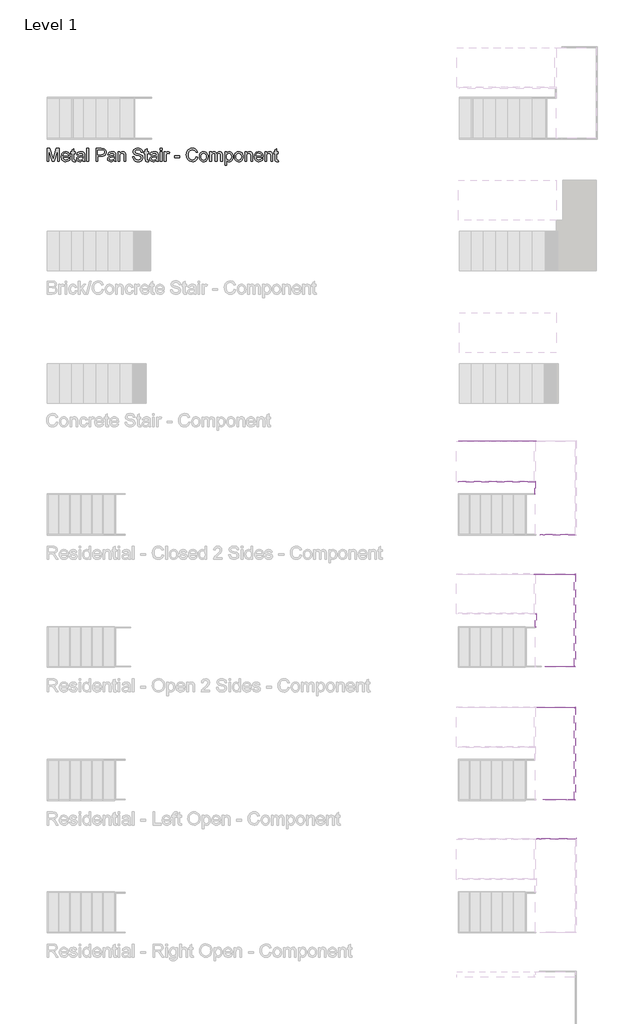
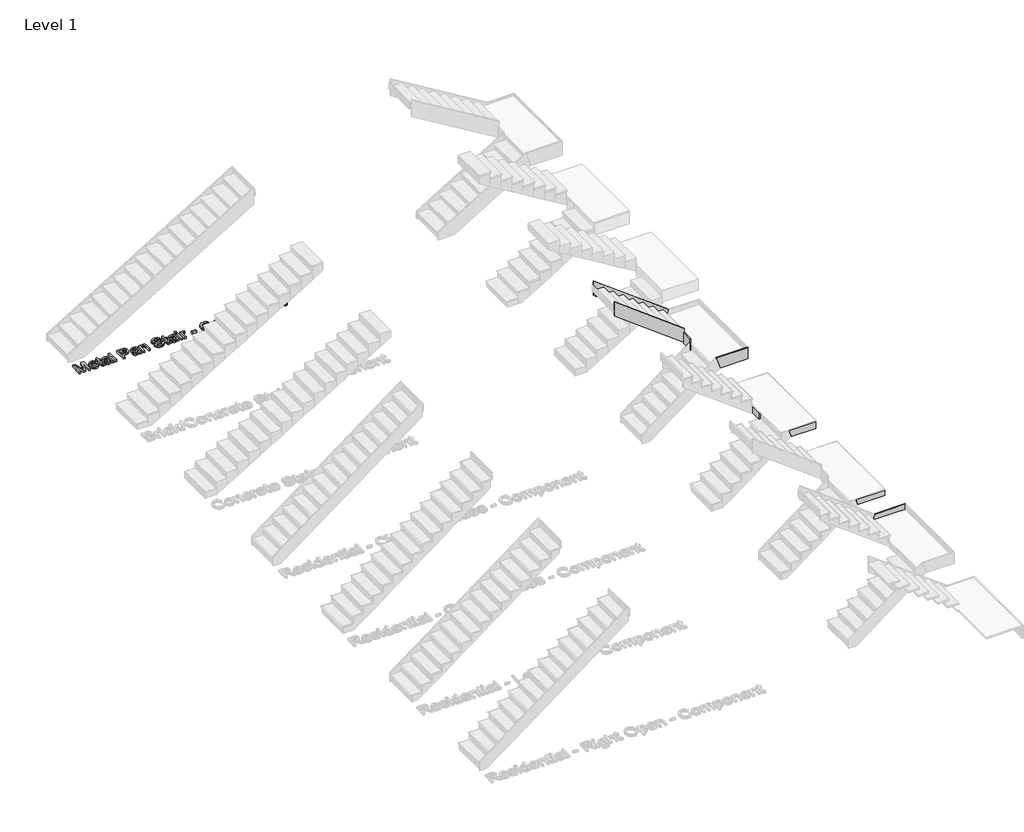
# One storey, part 20 of 26: 12 members, 1 proxy.
"""IFC4 building model written with IfcOpenShell, lengths in millimetres."""

from ifc_helpers import new_model, si_unit, frame, origin, origin_with_axes, place, context, project, spatial, polyline, outline, extrude, faceted_brep, element, save

model = new_model("IFC4")

# Units and contexts
model_context = context("Model", 3, world=origin())
ifc_project = project(units=[si_unit("LENGTHUNIT", "METRE", prefix="MILLI")], contexts=[model_context])

# Site, building, storey
site = spatial("IfcSite", under=ifc_project)
building = spatial("IfcBuilding", under=site)
storey = spatial("IfcBuildingStorey", under=building, Name="Level 1", Elevation=0.0)

# Proxy
placement = place(None, origin())
element("IfcBuildingElementProxy", 1, Name="12\" Arial", ObjectType="12\" Arial", at=placement, inside=storey, context=model_context, shape_type="SweptSolid", body=[
    extrude(outline(polyline([(-27238.310174, 15572.8767877), (-27238.310174, 15872.987557), (-27173.7599817, 15872.987557), (-27112.3603664, 15661.4592877), (-27099.9778664, 15617.2779416), (-27086.5695971, 15665.1227493), (-27026.195751, 15872.987557), (-26961.6455587, 15872.987557), (-26961.6455587, 15572.8767877), (-26999.1594048, 15572.8767877), (-26999.1594048, 15835.4737108), (-27074.5534433, 15572.8767877), (-27125.4022894, 15572.8767877), (-27200.7963279, 15835.4737108), (-27200.7963279, 15572.8767877), (-27238.310174, 15572.8767877)])), origin_with_axes(), (0.0, 0.0, 1.0), 50.8),
    extrude(outline(polyline([(-26746.3805587, 15638.5260185), (-26709.5994048, 15633.8367877), (-26722.8519769, 15606.1227012), (-26743.9993087, 15585.4058262), (-26772.56515, 15572.4921243), (-26808.073251, 15568.187557), (-26831.3499697, 15570.044474), (-26852.0897414, 15575.6152252), (-26870.2925659, 15584.8998106), (-26885.9584433, 15597.89823), (-26898.5561716, 15614.2487168), (-26907.554549, 15633.5895041), (-26912.9535755, 15655.9205918), (-26914.753251, 15681.24198), (-26912.9352582, 15707.4219921), (-26907.4812798, 15730.4972204), (-26898.3913159, 15750.4676651), (-26885.6653664, 15767.3333262), (-26870.0407029, 15780.7324368), (-26852.2545971, 15790.30323), (-26832.307049, 15796.045706), (-26810.1980587, 15797.9598646), (-26788.8011536, 15796.0502853), (-26769.4512077, 15790.3215473), (-26752.1482209, 15780.7736507), (-26736.8921933, 15767.4065954), (-26724.4387137, 15750.577569), (-26715.5433712, 15730.6437589), (-26710.2061656, 15707.6051651), (-26708.4270971, 15681.4617877), (-26708.6469048, 15671.3506339), (-26877.2394048, 15671.3506339), (-26870.7459192, 15643.2702012), (-26855.6616164, 15622.6265954), (-26833.8914962, 15609.9327012), (-26807.3405587, 15605.7014031), (-26787.3746933, 15607.661355), (-26770.5594048, 15613.5412108), (-26756.8946933, 15623.7073166), (-26746.3805587, 15638.5260185)]), holes=[polyline([(-26877.2394048, 15708.86448), (-26745.9409433, 15708.86448), (-26751.0148375, 15728.683807), (-26760.9611356, 15742.8614031), (-26782.832001, 15756.0498646), (-26810.3445971, 15760.4460185), (-26835.6316404, 15756.9382541), (-26856.5408471, 15746.4149608), (-26871.0756308, 15730.0118118), (-26877.2394048, 15708.86448)])]), origin_with_axes(), (0.0, 0.0, 1.0), 50.8),
    extrude(outline(polyline([(-26591.1963279, 15604.1627493), (-26586.5070971, 15571.7777493), (-26614.5692125, 15568.187557), (-26632.575126, 15569.7445281), (-26646.0017125, 15574.4154416), (-26655.4900779, 15581.6141435), (-26661.6813279, 15590.75448), (-26665.0883471, 15606.4524127), (-26666.2240202, 15633.3239031), (-26666.2240202, 15755.7567877), (-26694.3594048, 15755.7567877), (-26694.3594048, 15793.2706339), (-26666.2240202, 15793.2706339), (-26666.2240202, 15846.8304416), (-26628.710174, 15868.88448), (-26628.710174, 15793.2706339), (-26591.1963279, 15793.2706339), (-26591.1963279, 15755.7567877), (-26628.710174, 15755.7567877), (-26628.710174, 15634.4229416), (-26626.7319048, 15615.0798646), (-26620.3208471, 15608.2291916), (-26607.5353664, 15605.7014031), (-26591.1963279, 15604.1627493)])), origin_with_axes(), (0.0, 0.0, 1.0), 50.8),
    extrude(outline(polyline([(-26413.0055587, 15601.0121723), (-26430.9290442, 15585.6439512), (-26449.3837317, 15575.5877493), (-26468.7909192, 15570.037605), (-26489.5719048, 15568.187557), (-26520.9219769, 15572.6386627), (-26544.0475779, 15585.99198), (-26558.3076019, 15606.2692396), (-26563.0609433, 15631.4921723), (-26561.2658471, 15647.0435666), (-26555.8805587, 15661.1662108), (-26547.5736596, 15673.2556339), (-26537.0137317, 15682.7073646), (-26510.7467125, 15695.0165954), (-26478.2884433, 15700.6583262), (-26439.932001, 15706.5931339), (-26413.2253664, 15713.5537108), (-26413.0055587, 15721.9064031), (-26415.588299, 15738.6484223), (-26423.3365202, 15749.6021723), (-26440.6646933, 15757.735057), (-26464.8069048, 15760.4460185), (-26487.1540202, 15758.6417637), (-26502.7603664, 15753.2289993), (-26513.4027221, 15743.2185906), (-26520.8578664, 15727.6214031), (-26558.3717125, 15732.3106339), (-26551.8599096, 15752.8260185), (-26542.1425779, 15768.9452493), (-26528.3130106, 15781.2727973), (-26509.464501, 15790.4131339), (-26486.4121692, 15796.073182), (-26459.9711356, 15797.9598646), (-26434.6108231, 15796.2929896), (-26414.5075779, 15791.2923646), (-26399.3500058, 15783.7731098), (-26388.8267125, 15774.5503454), (-26381.8478183, 15763.1478214), (-26377.3234433, 15749.0892877), (-26375.4917125, 15716.2646723), (-26375.4917125, 15669.5921723), (-26373.5867125, 15604.4191916), (-26366.113251, 15572.8767877), (-26403.6270971, 15572.8767877), (-26413.0055587, 15601.0121723)]), holes=[polyline([(-26413.0055587, 15676.0398646), (-26473.5259433, 15664.5365954), (-26505.8010394, 15658.4552493), (-26520.418251, 15648.5639031), (-26525.5470971, 15634.1298646), (-26522.7537077, 15622.9746243), (-26514.3735394, 15613.8342877), (-26500.5897654, 15607.7346243), (-26481.5855587, 15605.7014031), (-26461.4365202, 15607.9452733), (-26443.6320971, 15614.6768839), (-26429.1980587, 15624.595706), (-26419.160174, 15636.4012108), (-26414.7090683, 15648.5639031), (-26413.2253664, 15665.4158262), (-26413.0055587, 15676.0398646)])]), origin_with_axes(), (0.0, 0.0, 1.0), 50.8),
    extrude(outline(polyline([(-26323.910174, 15572.8767877), (-26323.910174, 15872.987557), (-26286.3963279, 15872.987557), (-26286.3963279, 15572.8767877), (-26323.910174, 15572.8767877)])), origin_with_axes(), (0.0, 0.0, 1.0), 50.8),
    extrude(outline(polyline([(-26108.2055587, 15572.8767877), (-26108.2055587, 15872.987557), (-25996.9828664, 15872.987557), (-25952.1420971, 15870.130057), (-25932.1487558, 15864.7905618), (-25915.6906548, 15856.0989993), (-25902.4380827, 15843.6615473), (-25892.0613279, 15827.0843839), (-25885.3571933, 15807.5306579), (-25883.1224817, 15786.1635185), (-25884.63137, 15767.7408863), (-25889.1580346, 15750.7927973), (-25896.7024757, 15735.3192517), (-25907.2646933, 15721.3202493), (-25921.765132, 15709.7162348), (-25941.1242365, 15701.4276531), (-25965.342007, 15696.4545041), (-25994.4184433, 15694.7967877), (-26070.6917125, 15694.7967877), (-26070.6917125, 15572.8767877), (-26108.2055587, 15572.8767877)]), holes=[polyline([(-26070.6917125, 15732.3106339), (-25992.2203664, 15732.3106339), (-25958.9561356, 15735.7542877), (-25936.9753664, 15746.0852493), (-25924.7210875, 15762.6624127), (-25920.6363279, 15784.8446723), (-25923.0450539, 15801.6965954), (-25930.2712317, 15815.9108262), (-25941.4173135, 15826.6081339), (-25955.585751, 15832.9092877), (-25993.0995971, 15835.4737108), (-26070.6917125, 15835.4737108), (-26070.6917125, 15732.3106339)])]), origin_with_axes(), (0.0, 0.0, 1.0), 50.8),
    extrude(outline(polyline([(-25695.553251, 15601.0121723), (-25713.4767365, 15585.6439512), (-25731.931424, 15575.5877493), (-25751.3386115, 15570.037605), (-25772.1195971, 15568.187557), (-25803.4696692, 15572.6386627), (-25826.5952702, 15585.99198), (-25840.8552942, 15606.2692396), (-25845.6086356, 15631.4921723), (-25843.8135394, 15647.0435666), (-25838.428251, 15661.1662108), (-25830.1213519, 15673.2556339), (-25819.561424, 15682.7073646), (-25793.2944048, 15695.0165954), (-25760.8361356, 15700.6583262), (-25722.4796933, 15706.5931339), (-25695.7730587, 15713.5537108), (-25695.553251, 15721.9064031), (-25698.1359914, 15738.6484223), (-25705.8842125, 15749.6021723), (-25723.2123856, 15757.735057), (-25747.3545971, 15760.4460185), (-25769.7017125, 15758.6417637), (-25785.3080587, 15753.2289993), (-25795.9504144, 15743.2185906), (-25803.4055587, 15727.6214031), (-25840.9194048, 15732.3106339), (-25834.4076019, 15752.8260185), (-25824.6902702, 15768.9452493), (-25810.8607029, 15781.2727973), (-25792.0121933, 15790.4131339), (-25768.9598615, 15796.073182), (-25742.5188279, 15797.9598646), (-25717.1585154, 15796.2929896), (-25697.0552702, 15791.2923646), (-25681.8976981, 15783.7731098), (-25671.3744048, 15774.5503454), (-25664.3955106, 15763.1478214), (-25659.8711356, 15749.0892877), (-25658.0394048, 15716.2646723), (-25658.0394048, 15669.5921723), (-25656.1344048, 15604.4191916), (-25648.6609433, 15572.8767877), (-25686.1747894, 15572.8767877), (-25695.553251, 15601.0121723)]), holes=[polyline([(-25695.553251, 15676.0398646), (-25756.0736356, 15664.5365954), (-25788.3487317, 15658.4552493), (-25802.9659433, 15648.5639031), (-25808.0947894, 15634.1298646), (-25805.3014, 15622.9746243), (-25796.9212317, 15613.8342877), (-25783.1374577, 15607.7346243), (-25764.133251, 15605.7014031), (-25743.9842125, 15607.9452733), (-25726.1797894, 15614.6768839), (-25711.745751, 15624.595706), (-25701.7078664, 15636.4012108), (-25697.2567606, 15648.5639031), (-25695.7730587, 15665.4158262), (-25695.553251, 15676.0398646)])]), origin_with_axes(), (0.0, 0.0, 1.0), 50.8),
    extrude(outline(polyline([(-25606.4578664, 15572.8767877), (-25606.4578664, 15793.2706339), (-25568.9440202, 15793.2706339), (-25568.9440202, 15762.497557), (-25555.9112558, 15778.0123166), (-25540.2591164, 15789.0942877), (-25521.9876019, 15795.7434704), (-25501.0967125, 15797.9598646), (-25482.6053904, 15796.1739271), (-25465.6710394, 15790.8161146), (-25451.5483952, 15782.5550089), (-25441.4921933, 15772.0591916), (-25430.2453664, 15744.4733262), (-25428.2670971, 15708.205057), (-25428.2670971, 15572.8767877), (-25465.7809433, 15572.8767877), (-25465.7809433, 15703.14948), (-25470.1038279, 15736.3404416), (-25476.0844289, 15746.2226291), (-25485.3804625, 15753.8884223), (-25497.2958712, 15758.8066195), (-25511.1345971, 15760.4460185), (-25533.1062077, 15756.7642396), (-25551.8356548, 15745.7189031), (-25559.3205647, 15736.7022084), (-25564.6669289, 15724.3792396), (-25568.9440202, 15689.81448), (-25568.9440202, 15572.8767877), (-25606.4578664, 15572.8767877)])), origin_with_axes(), (0.0, 0.0, 1.0), 50.8),
    extrude(outline(polyline([(-25268.833251, 15676.0398646), (-25231.3194048, 15676.0398646), (-25227.0148375, 15655.2222445), (-25219.2299817, 15638.4893839), (-25207.0856067, 15625.2093358), (-25189.7024817, 15614.7501531), (-25168.4544048, 15607.9635906), (-25144.715174, 15605.7014031), (-25123.815126, 15607.4140714), (-25105.5161356, 15612.5520762), (-25090.688275, 15620.6849608), (-25080.2016164, 15631.3822685), (-25073.9645731, 15643.6640233), (-25071.8855587, 15656.5502493), (-25073.4425298, 15669.1067637), (-25078.1134433, 15679.9597685), (-25087.6018087, 15689.2191675), (-25103.6111356, 15696.9948646), (-25158.2333471, 15711.3189993), (-25194.0894769, 15720.798206), (-25217.0319048, 15729.81948), (-25235.7064, 15742.440105), (-25248.9406548, 15757.735057), (-25256.8262558, 15775.3746243), (-25259.4547894, 15795.0290954), (-25256.2034673, 15817.000706), (-25246.449501, 15837.4886146), (-25230.4493327, 15854.8534223), (-25208.4594048, 15867.45573), (-25182.0641644, 15875.1215233), (-25152.8480587, 15877.6767877), (-25121.195751, 15875.0024608), (-25093.4999817, 15866.97948), (-25070.7498856, 15853.7727012), (-25053.9345971, 15835.54698), (-25043.2922414, 15813.4379896), (-25039.0609433, 15788.5814031), (-25076.5747894, 15788.5814031), (-25083.4620971, 15810.9651531), (-25097.8228664, 15827.1210185), (-25120.2615683, 15836.9024608), (-25151.382674, 15840.1629416), (-25183.2364721, 15836.9390954), (-25205.0890202, 15827.267557), (-25217.7279625, 15813.0350089), (-25221.9409433, 15796.1281339), (-25218.9552221, 15781.7124127), (-25209.9980587, 15770.117557), (-25188.823251, 15759.7499608), (-25148.7449817, 15749.162557), (-25107.384501, 15739.106355), (-25082.3630587, 15730.3323646), (-25060.9776019, 15716.722605), (-25046.0581548, 15699.9256339), (-25037.2933231, 15680.1246243), (-25034.3717125, 15657.5027493), (-25037.7329385, 15634.3771483), (-25047.8166164, 15612.6253454), (-25064.2106067, 15593.905057), (-25086.5027702, 15579.8739993), (-25113.31015, 15571.1091675), (-25143.2497894, 15568.187557), (-25180.0034673, 15571.3381339), (-25210.254501, 15580.7898646), (-25234.3509192, 15596.5793839), (-25252.640751, 15618.7433262), (-25264.3821452, 15645.7430377), (-25268.833251, 15676.0398646)])), origin_with_axes(), (0.0, 0.0, 1.0), 50.8),
    extrude(outline(polyline([(-24903.073251, 15604.1627493), (-24898.3840202, 15571.7777493), (-24926.4461356, 15568.187557), (-24944.452049, 15569.7445281), (-24957.8786356, 15574.4154416), (-24967.367001, 15581.6141435), (-24973.558251, 15590.75448), (-24976.9652702, 15606.4524127), (-24978.1009433, 15633.3239031), (-24978.1009433, 15755.7567877), (-25006.2363279, 15755.7567877), (-25006.2363279, 15793.2706339), (-24978.1009433, 15793.2706339), (-24978.1009433, 15846.8304416), (-24940.5870971, 15868.88448), (-24940.5870971, 15793.2706339), (-24903.073251, 15793.2706339), (-24903.073251, 15755.7567877), (-24940.5870971, 15755.7567877), (-24940.5870971, 15634.4229416), (-24938.6088279, 15615.0798646), (-24932.1977702, 15608.2291916), (-24919.4122894, 15605.7014031), (-24903.073251, 15604.1627493)])), origin_with_axes(), (0.0, 0.0, 1.0), 50.8),
    extrude(outline(polyline([(-24724.8824817, 15601.0121723), (-24742.8059673, 15585.6439512), (-24761.2606548, 15575.5877493), (-24780.6678423, 15570.037605), (-24801.4488279, 15568.187557), (-24832.7989, 15572.6386627), (-24855.924501, 15585.99198), (-24870.184525, 15606.2692396), (-24874.9378664, 15631.4921723), (-24873.1427702, 15647.0435666), (-24867.7574817, 15661.1662108), (-24859.4505827, 15673.2556339), (-24848.8906548, 15682.7073646), (-24822.6236356, 15695.0165954), (-24790.1653664, 15700.6583262), (-24751.808924, 15706.5931339), (-24725.1022894, 15713.5537108), (-24724.8824817, 15721.9064031), (-24727.4652221, 15738.6484223), (-24735.2134433, 15749.6021723), (-24752.5416164, 15757.735057), (-24776.6838279, 15760.4460185), (-24799.0309433, 15758.6417637), (-24814.6372894, 15753.2289993), (-24825.2796452, 15743.2185906), (-24832.7347894, 15727.6214031), (-24870.2486356, 15732.3106339), (-24863.7368327, 15752.8260185), (-24854.019501, 15768.9452493), (-24840.1899337, 15781.2727973), (-24821.341424, 15790.4131339), (-24798.2890923, 15796.073182), (-24771.8480587, 15797.9598646), (-24746.4877462, 15796.2929896), (-24726.384501, 15791.2923646), (-24711.2269289, 15783.7731098), (-24700.7036356, 15774.5503454), (-24693.7247414, 15763.1478214), (-24689.2003664, 15749.0892877), (-24687.3686356, 15716.2646723), (-24687.3686356, 15669.5921723), (-24685.4636356, 15604.4191916), (-24677.990174, 15572.8767877), (-24715.5040202, 15572.8767877), (-24724.8824817, 15601.0121723)]), holes=[polyline([(-24724.8824817, 15676.0398646), (-24785.4028664, 15664.5365954), (-24817.6779625, 15658.4552493), (-24832.295174, 15648.5639031), (-24837.4240202, 15634.1298646), (-24834.6306308, 15622.9746243), (-24826.2504625, 15613.8342877), (-24812.4666885, 15607.7346243), (-24793.4624817, 15605.7014031), (-24773.3134433, 15607.9452733), (-24755.5090202, 15614.6768839), (-24741.0749817, 15624.595706), (-24731.0370971, 15636.4012108), (-24726.5859914, 15648.5639031), (-24725.1022894, 15665.4158262), (-24724.8824817, 15676.0398646)])]), origin_with_axes(), (0.0, 0.0, 1.0), 50.8),
    extrude(outline(polyline([(-24635.7870971, 15572.8767877), (-24635.7870971, 15793.2706339), (-24598.273251, 15793.2706339), (-24598.273251, 15572.8767877), (-24635.7870971, 15572.8767877)])), origin_with_axes(), (0.0, 0.0, 1.0), 50.8),
    extrude(outline(polyline([(-24635.7870971, 15835.4737108), (-24635.7870971, 15872.987557), (-24598.273251, 15872.987557), (-24598.273251, 15835.4737108), (-24635.7870971, 15835.4737108)])), origin_with_axes(), (0.0, 0.0, 1.0), 50.8),
    extrude(outline(polyline([(-24542.0024817, 15572.8767877), (-24542.0024817, 15793.2706339), (-24509.1778664, 15793.2706339), (-24509.1778664, 15760.6658262), (-24497.0518087, 15779.5692877), (-24485.878251, 15790.7062108), (-24474.6680587, 15796.1464512), (-24462.4320971, 15797.9598646), (-24443.7484433, 15795.06573), (-24424.7717125, 15786.3833262), (-24437.300751, 15752.7527493), (-24450.4892125, 15758.5227012), (-24463.677674, 15760.4460185), (-24474.8787077, 15758.5959704), (-24484.8891164, 15753.0458262), (-24492.9762077, 15744.2168839), (-24498.4072894, 15732.5304416), (-24502.968299, 15711.5754416), (-24504.4886356, 15688.7154416), (-24504.4886356, 15572.8767877), (-24542.0024817, 15572.8767877)])), origin_with_axes(), (0.0, 0.0, 1.0), 50.8),
    extrude(outline(polyline([(-24302.8517125, 15661.9721723), (-24302.8517125, 15699.4860185), (-24185.6209433, 15699.4860185), (-24185.6209433, 15661.9721723), (-24302.8517125, 15661.9721723)])), origin_with_axes(), (0.0, 0.0, 1.0), 50.8),
    extrude(outline(polyline([(-23810.4824817, 15679.5567877), (-23772.9686356, 15669.8852493), (-23780.3917245, 15646.5558683), (-23790.2784914, 15626.1709945), (-23802.6289361, 15608.7306279), (-23817.4430587, 15594.2347685), (-23834.3865683, 15582.8391134), (-23853.125174, 15574.6993598), (-23873.658876, 15569.8155077), (-23895.987674, 15568.187557), (-23939.5004385, 15573.1149127), (-23974.0560394, 15587.89698), (-24000.5428664, 15612.0208743), (-24019.8493087, 15644.9737108), (-24031.6364962, 15683.7148166), (-24035.5655587, 15725.2035185), (-24031.1236115, 15768.9635666), (-24017.7977702, 15806.7521723), (-23996.2840923, 15837.3695521), (-23967.2786356, 15859.6159223), (-23932.8787317, 15873.1615714), (-23895.1817125, 15877.6767877), (-23854.0501981, 15871.8335666), (-23836.1564781, 15864.5295401), (-23820.0441164, 15854.3039031), (-23805.9787137, 15841.4268358), (-23794.2258712, 15826.1685185), (-23777.6578664, 15788.5081339), (-23815.1717125, 15779.5692877), (-23828.177001, 15806.9261868), (-23845.9447894, 15825.6922685), (-23868.6948856, 15836.5452733), (-23896.6470971, 15840.1629416), (-23928.8672414, 15836.1514512), (-23955.335751, 15824.11698), (-23975.4206789, 15805.3234223), (-23988.4900779, 15781.0346723), (-23995.6613039, 15753.5770281), (-23998.0517125, 15725.2767877), (-23995.2216885, 15690.6204416), (-23986.7316164, 15660.6533262), (-23972.2609433, 15636.5202733), (-23951.4891164, 15619.3661146), (-23926.5867365, 15609.117581), (-23899.7244048, 15605.7014031), (-23868.4109673, 15610.3539993), (-23842.3179625, 15624.3117877), (-23822.6176981, 15647.42823), (-23810.4824817, 15679.5567877)])), origin_with_axes(), (0.0, 0.0, 1.0), 50.8),
    extrude(outline(polyline([(-23735.4547894, 15683.0737108), (-23733.4261476, 15711.6166555), (-23727.3402221, 15736.2122204), (-23717.197013, 15756.8604055), (-23702.9965202, 15773.5612108), (-23688.6998615, 15784.2356219), (-23672.919501, 15791.8602012), (-23655.6554385, 15796.4349488), (-23636.907674, 15797.9598646), (-23616.211406, 15796.1029476), (-23597.4979865, 15790.5321964), (-23580.7674156, 15781.247611), (-23566.0196933, 15768.2491916), (-23553.9829325, 15751.9765534), (-23545.3852462, 15732.8693118), (-23540.2266344, 15710.9274668), (-23538.5070971, 15686.1510185), (-23541.5477702, 15648.2525089), (-23550.6697894, 15619.4027493), (-23565.6075539, 15597.7974848), (-23586.0954625, 15581.6324608), (-23610.4300058, 15571.5487829), (-23636.907674, 15568.187557), (-23657.9061777, 15570.037605), (-23676.7936115, 15575.5877493), (-23693.5699757, 15584.8379896), (-23708.2352702, 15597.7883262), (-23720.1438099, 15614.2189512), (-23728.6499096, 15633.910057), (-23733.7535695, 15656.8616435), (-23735.4547894, 15683.0737108)]), holes=[polyline([(-23697.9409433, 15683.14698), (-23693.5997414, 15649.1958502), (-23680.5761356, 15625.0078454), (-23660.9766164, 15610.5280137), (-23636.907674, 15605.7014031), (-23612.9486356, 15610.5554896), (-23593.385751, 15625.1177493), (-23580.3621452, 15649.626307), (-23576.0209433, 15684.3192877), (-23580.3896212, 15717.2812829), (-23593.4956548, 15741.1395762), (-23613.0860154, 15755.6194079), (-23636.907674, 15760.4460185), (-23660.9766164, 15755.6377252), (-23680.5761356, 15741.2128454), (-23693.5997414, 15717.0797925), (-23697.9409433, 15683.14698)])]), origin_with_axes(), (0.0, 0.0, 1.0), 50.8),
    extrude(outline(polyline([(-23496.3040202, 15572.8767877), (-23496.3040202, 15793.2706339), (-23458.790174, 15793.2706339), (-23458.790174, 15757.0023646), (-23447.5067125, 15773.661956), (-23432.9994048, 15786.7130377), (-23415.7628183, 15795.1481579), (-23396.2915202, 15797.9598646), (-23375.4281067, 15795.093206), (-23358.7044048, 15786.49323), (-23346.212001, 15772.7277733), (-23338.0424817, 15754.3646723), (-23324.3686115, 15773.437569), (-23308.771424, 15787.0610666), (-23291.2509192, 15795.2351651), (-23271.8070971, 15797.9598646), (-23243.6076019, 15793.426331), (-23222.7533471, 15779.82573), (-23209.8671212, 15756.7917156), (-23205.5717125, 15723.9579416), (-23205.5717125, 15572.8767877), (-23243.0855587, 15572.8767877), (-23243.0855587, 15707.8387108), (-23246.5658471, 15739.161307), (-23251.4565683, 15747.7979175), (-23259.1681548, 15754.58448), (-23269.0869769, 15758.9806339), (-23280.5994048, 15760.4460185), (-23300.9224577, 15756.6909704), (-23317.4904625, 15745.4258262), (-23328.5083231, 15725.8812589), (-23332.1809433, 15697.2879416), (-23332.1809433, 15572.8767877), (-23369.6947894, 15572.8767877), (-23369.6947894, 15712.015057), (-23371.8653904, 15733.2264993), (-23378.3771933, 15748.3565954), (-23389.8346692, 15757.4236627), (-23406.8422894, 15760.4460185), (-23421.2946452, 15758.4311146), (-23434.6113279, 15752.3864031), (-23445.6017125, 15742.4584223), (-23453.075174, 15728.7937108), (-23457.361424, 15709.8352973), (-23458.790174, 15684.0262108), (-23458.790174, 15572.8767877), (-23496.3040202, 15572.8767877)])), origin_with_axes(), (0.0, 0.0, 1.0), 50.8),
    extrude(outline(polyline([(-23149.3009433, 15488.4706339), (-23149.3009433, 15793.2706339), (-23111.7870971, 15793.2706339), (-23111.7870971, 15756.48948), (-23099.5511356, 15774.6327733), (-23085.8497894, 15787.5922685), (-23069.8770971, 15795.3679656), (-23050.8270971, 15797.9598646), (-23025.457626, 15794.3330377), (-23003.2753664, 15783.452557), (-22985.214501, 15765.9778454), (-22972.2092125, 15742.5683262), (-22964.3510875, 15714.9275089), (-22961.7317125, 15684.7589031), (-22964.6899577, 15652.6761387), (-22973.5646933, 15623.9820762), (-22988.072001, 15600.1329416), (-23007.9279625, 15582.5849608), (-23031.0535635, 15571.7869079), (-23055.3697894, 15568.187557), (-23072.6155346, 15570.5962829), (-23088.0112317, 15577.8224608), (-23101.1905346, 15588.7304175), (-23111.7870971, 15602.18448), (-23111.7870971, 15488.4706339), (-23149.3009433, 15488.4706339)]), holes=[polyline([(-23111.7870971, 15681.3152493), (-23107.7298135, 15647.6846723), (-23095.5579625, 15624.1652493), (-23077.5978423, 15610.3173646), (-23056.175751, 15605.7014031), (-23034.4056308, 15610.4822204), (-23015.9875779, 15624.8246723), (-23003.4310635, 15649.2050089), (-22999.2455587, 15684.09948), (-23003.3303183, 15717.5468839), (-23015.5845971, 15741.3960185), (-23033.5172414, 15755.6835185), (-23054.6370971, 15760.4460185), (-23075.8393808, 15755.3812829), (-23094.458924, 15740.1870762), (-23107.4550539, 15715.3396483), (-23111.7870971, 15681.3152493)])]), origin_with_axes(), (0.0, 0.0, 1.0), 50.8),
    extrude(outline(polyline([(-22928.9070971, 15683.0737108), (-22926.8784553, 15711.6166555), (-22920.7925298, 15736.2122204), (-22910.6493207, 15756.8604055), (-22896.4488279, 15773.5612108), (-22882.1521692, 15784.2356219), (-22866.3718087, 15791.8602012), (-22849.1077462, 15796.4349488), (-22830.3599817, 15797.9598646), (-22809.6637137, 15796.1029476), (-22790.9502942, 15790.5321964), (-22774.2197233, 15781.247611), (-22759.472001, 15768.2491916), (-22747.4352402, 15751.9765534), (-22738.8375539, 15732.8693118), (-22733.6789421, 15710.9274668), (-22731.9594048, 15686.1510185), (-22735.0000779, 15648.2525089), (-22744.1220971, 15619.4027493), (-22759.0598615, 15597.7974848), (-22779.5477702, 15581.6324608), (-22803.8823135, 15571.5487829), (-22830.3599817, 15568.187557), (-22851.3584853, 15570.037605), (-22870.2459192, 15575.5877493), (-22887.0222834, 15584.8379896), (-22901.6875779, 15597.7883262), (-22913.5961176, 15614.2189512), (-22922.1022173, 15633.910057), (-22927.2058772, 15656.8616435), (-22928.9070971, 15683.0737108)]), holes=[polyline([(-22891.393251, 15683.14698), (-22887.052049, 15649.1958502), (-22874.0284433, 15625.0078454), (-22854.428924, 15610.5280137), (-22830.3599817, 15605.7014031), (-22806.4009433, 15610.5554896), (-22786.8380587, 15625.1177493), (-22773.8144529, 15649.626307), (-22769.473251, 15684.3192877), (-22773.8419289, 15717.2812829), (-22786.9479625, 15741.1395762), (-22806.5383231, 15755.6194079), (-22830.3599817, 15760.4460185), (-22854.428924, 15755.6377252), (-22874.0284433, 15741.2128454), (-22887.052049, 15717.0797925), (-22891.393251, 15683.14698)])]), origin_with_axes(), (0.0, 0.0, 1.0), 50.8),
    extrude(outline(polyline([(-22689.7563279, 15572.8767877), (-22689.7563279, 15793.2706339), (-22652.2424817, 15793.2706339), (-22652.2424817, 15762.497557), (-22639.2097173, 15778.0123166), (-22623.5575779, 15789.0942877), (-22605.2860635, 15795.7434704), (-22584.395174, 15797.9598646), (-22565.9038519, 15796.1739271), (-22548.969501, 15790.8161146), (-22534.8468567, 15782.5550089), (-22524.7906548, 15772.0591916), (-22513.5438279, 15744.4733262), (-22511.5655587, 15708.205057), (-22511.5655587, 15572.8767877), (-22549.0794048, 15572.8767877), (-22549.0794048, 15703.14948), (-22553.4022894, 15736.3404416), (-22559.3828904, 15746.2226291), (-22568.678924, 15753.8884223), (-22580.5943327, 15758.8066195), (-22594.4330587, 15760.4460185), (-22616.4046692, 15756.7642396), (-22635.1341164, 15745.7189031), (-22642.6190262, 15736.7022084), (-22647.9653904, 15724.3792396), (-22652.2424817, 15689.81448), (-22652.2424817, 15572.8767877), (-22689.7563279, 15572.8767877)])), origin_with_axes(), (0.0, 0.0, 1.0), 50.8),
    extrude(outline(polyline([(-22305.6790202, 15638.5260185), (-22268.8978664, 15633.8367877), (-22282.1504385, 15606.1227012), (-22303.2977702, 15585.4058262), (-22331.8636115, 15572.4921243), (-22367.3717125, 15568.187557), (-22390.6484313, 15570.044474), (-22411.3882029, 15575.6152252), (-22429.5910274, 15584.8998106), (-22445.2569048, 15597.89823), (-22457.8546332, 15614.2487168), (-22466.8530106, 15633.5895041), (-22472.252037, 15655.9205918), (-22474.0517125, 15681.24198), (-22472.2337197, 15707.4219921), (-22466.7797414, 15730.4972204), (-22457.6897774, 15750.4676651), (-22444.9638279, 15767.3333262), (-22429.3391644, 15780.7324368), (-22411.5530587, 15790.30323), (-22391.6055106, 15796.045706), (-22369.4965202, 15797.9598646), (-22348.0996152, 15796.0502853), (-22328.7496692, 15790.3215473), (-22311.4466825, 15780.7736507), (-22296.1906548, 15767.4065954), (-22283.7371753, 15750.577569), (-22274.8418327, 15730.6437589), (-22269.5046272, 15707.6051651), (-22267.7255587, 15681.4617877), (-22267.9453664, 15671.3506339), (-22436.5378664, 15671.3506339), (-22430.0443808, 15643.2702012), (-22414.9600779, 15622.6265954), (-22393.1899577, 15609.9327012), (-22366.6390202, 15605.7014031), (-22346.6731548, 15607.661355), (-22329.8578664, 15613.5412108), (-22316.1931548, 15623.7073166), (-22305.6790202, 15638.5260185)]), holes=[polyline([(-22436.5378664, 15708.86448), (-22305.2394048, 15708.86448), (-22310.313299, 15728.683807), (-22320.2595971, 15742.8614031), (-22342.1304625, 15756.0498646), (-22369.6430587, 15760.4460185), (-22394.9301019, 15756.9382541), (-22415.8393087, 15746.4149608), (-22430.3740923, 15730.0118118), (-22436.5378664, 15708.86448)])]), origin_with_axes(), (0.0, 0.0, 1.0), 50.8),
    extrude(outline(polyline([(-22230.2117125, 15572.8767877), (-22230.2117125, 15793.2706339), (-22192.6978664, 15793.2706339), (-22192.6978664, 15762.497557), (-22179.6651019, 15778.0123166), (-22164.0129625, 15789.0942877), (-22145.7414481, 15795.7434704), (-22124.8505587, 15797.9598646), (-22106.3592365, 15796.1739271), (-22089.4248856, 15790.8161146), (-22075.3022414, 15782.5550089), (-22065.2460394, 15772.0591916), (-22053.9992125, 15744.4733262), (-22052.0209433, 15708.205057), (-22052.0209433, 15572.8767877), (-22089.5347894, 15572.8767877), (-22089.5347894, 15703.14948), (-22093.857674, 15736.3404416), (-22099.838275, 15746.2226291), (-22109.1343087, 15753.8884223), (-22121.0497173, 15758.8066195), (-22134.8884433, 15760.4460185), (-22156.8600539, 15756.7642396), (-22175.589501, 15745.7189031), (-22183.0744108, 15736.7022084), (-22188.420775, 15724.3792396), (-22192.6978664, 15689.81448), (-22192.6978664, 15572.8767877), (-22230.2117125, 15572.8767877)])), origin_with_axes(), (0.0, 0.0, 1.0), 50.8),
    extrude(outline(polyline([(-21920.7224817, 15604.1627493), (-21916.033251, 15571.7777493), (-21944.0953664, 15568.187557), (-21962.1012798, 15569.7445281), (-21975.5278664, 15574.4154416), (-21985.0162317, 15581.6141435), (-21991.2074817, 15590.75448), (-21994.614501, 15606.4524127), (-21995.750174, 15633.3239031), (-21995.750174, 15755.7567877), (-22023.8855587, 15755.7567877), (-22023.8855587, 15793.2706339), (-21995.750174, 15793.2706339), (-21995.750174, 15846.8304416), (-21958.2363279, 15868.88448), (-21958.2363279, 15793.2706339), (-21920.7224817, 15793.2706339), (-21920.7224817, 15755.7567877), (-21958.2363279, 15755.7567877), (-21958.2363279, 15634.4229416), (-21956.2580587, 15615.0798646), (-21949.847001, 15608.2291916), (-21937.0615202, 15605.7014031), (-21920.7224817, 15604.1627493)])), origin_with_axes(), (0.0, 0.0, 1.0), 50.8),
])

# Members
element("IfcMember", 2, ObjectType="Stringer - Unassigned - 3/4\" Width (1)", at=placement, inside=storey, context=model_context, shape_type="SweptSolid", body=[
    extrude(outline(polyline([(1385.8875, -16004.0481446), (1766.8875, -16004.0481446), (3100.3875, -17782.0481446), (2719.3875, -17782.0481446), (1385.8875, -16004.0481446)])), frame((0.0, 8204.0628094, 0.0), z_axis=(0.0, 1.0, 0.0), x_axis=(0.0, 0.0, 1.0)), (0.0, 0.0, 1.0), 19.05),
])
element("IfcMember", 3, ObjectType="Stringer - Unassigned - 3/4\" Width (1)", at=placement, inside=storey, context=model_context, shape_type="SweptSolid", body=[
    extrude(outline(polyline([(1358.9, -15968.0648113), (1663.7, -15866.4648113), (3100.3875, -17782.0481446), (2719.3875, -17782.0481446), (1358.9, -15968.0648113)])), frame((0.0, 9137.5128094, 0.0), z_axis=(0.0, 1.0, 0.0), x_axis=(0.0, 0.0, 1.0)), (0.0, 0.0, 1.0), 19.05),
])
element("IfcMember", 4, ObjectType="Stringer - Unassigned - 3/4\" Width (1)", at=placement, inside=storey, context=model_context, shape_type="SweptSolid", body=[
    extrude(outline(polyline([(-16023.0981446, 8204.0628094), (-16004.0481446, 8204.0628094), (-16004.0481446, 7918.3128094), (-16023.0981446, 7918.3128094), (-16023.0981446, 8204.0628094)])), frame((0.0, 0.0, 1358.9), z_axis=(0.0, 0.0, 1.0), x_axis=(1.0, 0.0, 0.0)), (0.0, 0.0, 1.0), 304.8),
])
element("IfcMember", 5, ObjectType="Stringer - Unassigned - 3/4\" Width (1)", at=placement, inside=storey, context=model_context, shape_type="Brep", body=[
    faceted_brep([(-15887.631478, 7003.9128094, 1663.7), (-15887.631478, 6984.8628094, 1663.7), (-15070.5981446, 6984.8628094, 1663.7), (-15089.6481446, 7003.9128094, 1663.7), (-15786.031478, 7003.9128094, 1358.9), (-15089.6481446, 7003.9128094, 1358.9), (-15786.031478, 6984.8628094, 1358.9), (-15070.5981446, 6984.8628094, 1358.9)], [[[0, 1, 2, 3]], [[4, 0, 3, 5]], [[6, 4, 5, 7]], [[1, 6, 7, 2]], [[1, 0, 4, 6]], [[2, 7, 5, 3]]]),
])
element("IfcMember", 6, ObjectType="Stringer - Unassigned - 3/4\" Width (1)", at=placement, inside=storey, context=model_context, shape_type="SweptSolid", body=[
    extrude(outline(polyline([(-16004.0481446, 5175.1128094), (-15984.9981446, 5175.1128094), (-15984.9981446, 4870.3128094), (-16004.0481446, 4870.3128094), (-16004.0481446, 5175.1128094)])), frame((0.0, 0.0, 1314.45), z_axis=(0.0, 0.0, 1.0), x_axis=(1.0, 0.0, 0.0)), (0.0, 0.0, 1.0), 184.15),
])
element("IfcMember", 7, ObjectType="Stringer - Unassigned - 3/4\" Width (1)", at=placement, inside=storey, context=model_context, shape_type="Brep", body=[
    faceted_brep([(-15108.6981446, 3974.9628094, 1314.45), (-15718.2981446, 3974.9628094, 1314.45), (-15779.681478, 3974.9628094, 1498.6), (-15108.6981446, 3974.9628094, 1498.6), (-15089.6481446, 3955.9128094, 1314.45), (-15718.2981446, 3955.9128094, 1314.45), (-15089.6481446, 3955.9128094, 1498.6), (-15779.681478, 3955.9128094, 1498.6)], [[[0, 1, 2, 3]], [[1, 0, 4, 5]], [[5, 4, 6, 7]], [[1, 5, 7, 2]], [[4, 0, 3, 6]], [[3, 2, 7, 6]]]),
])
element("IfcMember", 8, ObjectType="Stringer - Unassigned - 3/4\" Width (1)", at=placement, inside=storey, context=model_context, shape_type="SweptSolid", body=[
    extrude(outline(polyline([(-15108.6981446, 3974.9628094), (-15108.6981446, 6070.4628094), (-15089.6481446, 6089.5128094), (-15089.6481446, 3955.9128094), (-15108.6981446, 3974.9628094)])), frame((0.0, 0.0, 1314.45), z_axis=(0.0, 0.0, 1.0), x_axis=(1.0, 0.0, 0.0)), (0.0, 0.0, 1.0), 184.15),
])
element("IfcMember", 9, ObjectType="Stringer - Unassigned - 3/4\" Width (1)", at=placement, inside=storey, context=model_context, shape_type="Brep", body=[
    faceted_brep([(-16035.7981446, 6070.4628094, 1314.45), (-15108.6981446, 6070.4628094, 1314.45), (-15108.6981446, 6070.4628094, 1498.6), (-15974.4148113, 6070.4628094, 1498.6), (-16035.7981446, 6089.5128094, 1314.45), (-16004.0481446, 6089.5128094, 1314.45), (-15089.6481446, 6089.5128094, 1314.45), (-15089.6481446, 6089.5128094, 1498.6), (-16004.0481446, 6089.5128094, 1409.7), (-15974.4148113, 6089.5128094, 1498.6)], [[[0, 1, 2, 3]], [[1, 0, 4, 5, 6]], [[7, 6, 5, 4, 8, 9]], [[1, 6, 7, 2]], [[4, 0, 3, 9, 8]], [[3, 2, 7, 9]]]),
])
element("IfcMember", 10, at=placement, inside=storey, context=model_context, shape_type="Brep", body=[
    faceted_brep([(-15108.6981446, 915.2068972, 1358.9), (-15786.031478, 915.2068972, 1358.9), (-15832.5981446, 915.2068972, 1498.6), (-15108.6981446, 915.2068972, 1498.6), (-15089.6481446, 896.1568972, 1358.9), (-15786.031478, 896.1568972, 1358.9), (-15089.6481446, 896.1568972, 1498.6), (-15832.5981446, 896.1568972, 1498.6)], [[[0, 1, 2, 3]], [[1, 0, 4, 5]], [[5, 4, 6, 7]], [[1, 5, 7, 2]], [[4, 0, 3, 6]], [[3, 2, 7, 6]]]),
])
element("IfcMember", 11, at=placement, inside=storey, context=model_context, shape_type="SweptSolid", body=[
    extrude(outline(polyline([(-15108.6981446, 915.2068972), (-15108.6981446, 3010.7068972), (-15089.6481446, 3029.7568972), (-15089.6481446, 896.1568972), (-15108.6981446, 915.2068972)])), frame((0.0, 0.0, 1358.9), z_axis=(0.0, 0.0, 1.0), x_axis=(1.0, 0.0, 0.0)), (0.0, 0.0, 1.0), 139.7),
])
element("IfcMember", 12, at=placement, inside=storey, context=model_context, shape_type="Brep", body=[
    faceted_brep([(-15968.0648113, 3010.7068972, 1358.9), (-15108.6981446, 3010.7068972, 1358.9), (-15108.6981446, 3010.7068972, 1498.6), (-15921.4981446, 3010.7068972, 1498.6), (-15968.0648113, 3029.7568972, 1358.9), (-15089.6481446, 3029.7568972, 1358.9), (-15921.4981446, 3029.7568972, 1498.6), (-15089.6481446, 3029.7568972, 1498.6)], [[[0, 1, 2, 3]], [[1, 0, 4, 5]], [[5, 4, 6, 7]], [[1, 5, 7, 2]], [[4, 0, 3, 6]], [[3, 2, 7, 6]]]),
])
element("IfcMember", 13, at=placement, inside=storey, context=model_context, shape_type="Brep", body=[
    faceted_brep([(-15089.6481446, -6.4871906, 1663.7), (-15070.5981446, 12.5628094, 1663.7), (-15866.4648113, 12.5628094, 1663.7), (-15866.4648113, -6.4871906, 1663.7), (-15089.6481446, -6.4871906, 1358.9), (-15968.0648113, -6.4871906, 1358.9), (-15070.5981446, 12.5628094, 1358.9), (-15968.0648113, 12.5628094, 1358.9)], [[[0, 1, 2, 3]], [[4, 0, 3, 5]], [[6, 4, 5, 7]], [[1, 6, 7, 2]], [[1, 0, 4, 6]], [[2, 7, 5, 3]]]),
])

save(model, "model.ifc")
